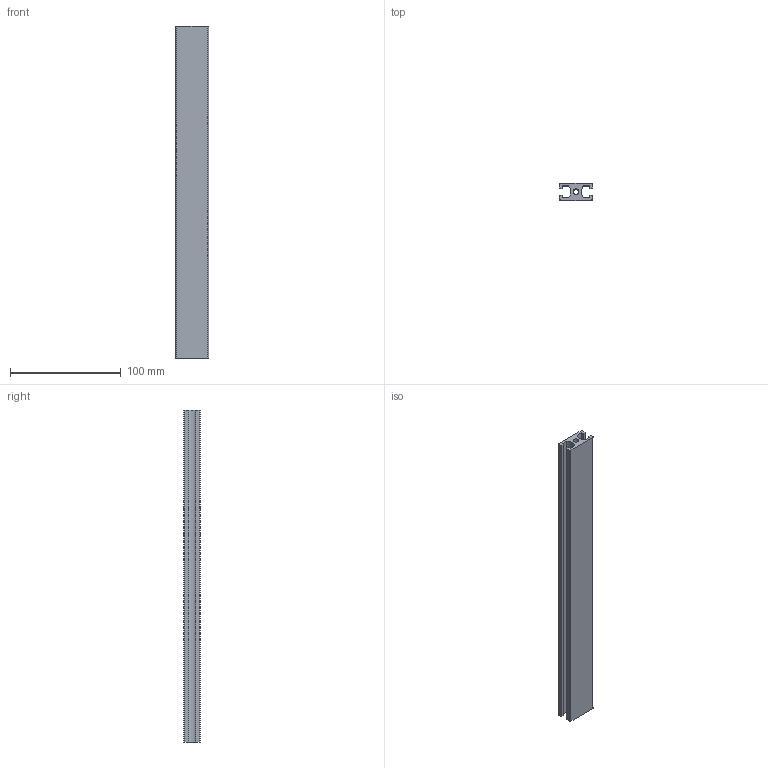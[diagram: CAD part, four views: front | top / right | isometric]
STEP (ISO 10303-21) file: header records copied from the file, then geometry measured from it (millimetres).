
FILE_DESCRIPTION (( 'STEP AP203' ), '1' );
FILE_NAME ('1-CG-1530-6.STEP', '2015-07-07T02:29:46', ( '' ), ( '' ), 'SwSTEP 2.0', 'SolidWorks 2013', '' );
FILE_SCHEMA (( 'CONFIG_CONTROL_DESIGN' ));
Length unit declared in the file: millimetre
Products named in the file (1): 1-CG-1530-6
Bounding box: 30 x 15 x 300 mm (x, y, z)
Volume: 73859.3 mm3; surface area: 47065.4 mm2
Topology: 1 solids, 1 shells, 29 faces, 81 edges, 54 vertices
Faces by surface type: plane 20, cylinder 9
Entity records: 1014 total; most frequent: CARTESIAN_POINT 165, ORIENTED_EDGE 162, DIRECTION 159, EDGE_CURVE 81, VECTOR 63, LINE 63, VERTEX_POINT 54, AXIS2_PLACEMENT_3D 48
